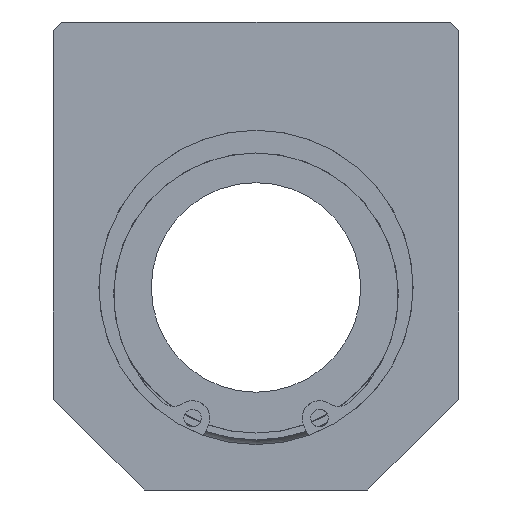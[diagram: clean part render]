
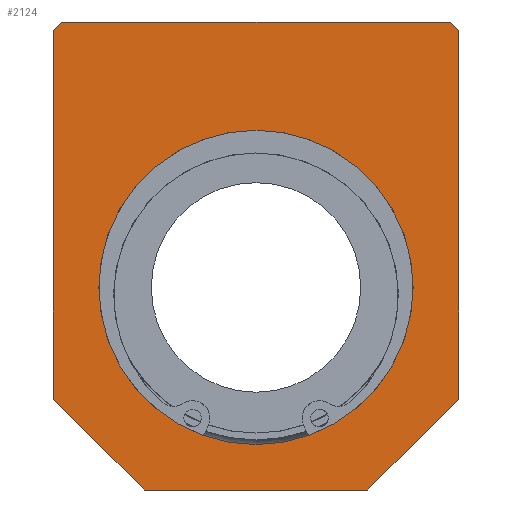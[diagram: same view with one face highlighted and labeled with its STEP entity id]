
A CAD part, left-side view. The second image highlights one B-rep face of the part: STEP entity #2124.
In plain terms, the highlighted planar face has unit normal (-1, 0, 0).
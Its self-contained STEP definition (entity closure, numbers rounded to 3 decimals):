
#2026=CARTESIAN_POINT('',(0.0,-27.8,38.));
#2027=VERTEX_POINT('',#2026);
#2034=CARTESIAN_POINT('',(0.0,-29.0,36.8));
#2035=VERTEX_POINT('',#2034);
#2036=CARTESIAN_POINT('',(0.0,-27.8,38.));
#2037=DIRECTION('',(0.0,-0.707,-0.707));
#2038=VECTOR('',#2037,1.697);
#2039=LINE('',#2036,#2038);
#2040=EDGE_CURVE('',#2027,#2035,#2039,.T.);
#2051=CARTESIAN_POINT('',(0.0,0.,4.5));
#2052=DIRECTION('',(1.0,0.0,0.0));
#2053=DIRECTION('',(0.0,0.0,-1.0));
#2054=AXIS2_PLACEMENT_3D('',#2051,#2052,#2053);
#2055=PLANE('',#2054);
#2056=ORIENTED_EDGE('',*,*,#2040,.F.);
#2057=CARTESIAN_POINT('',(0.0,27.8,38.));
#2058=VERTEX_POINT('',#2057);
#2059=CARTESIAN_POINT('',(0.0,-27.8,38.));
#2060=DIRECTION('',(0.0,1.0,0.0));
#2061=VECTOR('',#2060,55.6);
#2062=LINE('',#2059,#2061);
#2063=EDGE_CURVE('',#2027,#2058,#2062,.T.);
#2064=ORIENTED_EDGE('',*,*,#2063,.T.);
#2065=CARTESIAN_POINT('',(0.0,29.0,36.8));
#2066=VERTEX_POINT('',#2065);
#2067=CARTESIAN_POINT('',(0.0,29.0,36.8));
#2068=DIRECTION('',(0.0,-0.707,0.707));
#2069=VECTOR('',#2068,1.697);
#2070=LINE('',#2067,#2069);
#2071=EDGE_CURVE('',#2066,#2058,#2070,.T.);
#2072=ORIENTED_EDGE('',*,*,#2071,.F.);
#2073=CARTESIAN_POINT('',(0.0,29.,-16.));
#2074=VERTEX_POINT('',#2073);
#2075=CARTESIAN_POINT('',(0.0,29.0,36.8));
#2076=DIRECTION('',(0.0,0.0,-1.0));
#2077=VECTOR('',#2076,52.8);
#2078=LINE('',#2075,#2077);
#2079=EDGE_CURVE('',#2066,#2074,#2078,.T.);
#2080=ORIENTED_EDGE('',*,*,#2079,.T.);
#2081=CARTESIAN_POINT('',(0.0,16.,-29.));
#2082=VERTEX_POINT('',#2081);
#2083=CARTESIAN_POINT('',(0.0,16.,-29.));
#2084=DIRECTION('',(0.0,0.707,0.707));
#2085=VECTOR('',#2084,18.385);
#2086=LINE('',#2083,#2085);
#2087=EDGE_CURVE('',#2082,#2074,#2086,.T.);
#2088=ORIENTED_EDGE('',*,*,#2087,.F.);
#2089=CARTESIAN_POINT('',(0.0,-16.,-29.));
#2090=VERTEX_POINT('',#2089);
#2091=CARTESIAN_POINT('',(0.0,16.,-29.));
#2092=DIRECTION('',(0.0,-1.0,0.0));
#2093=VECTOR('',#2092,32.);
#2094=LINE('',#2091,#2093);
#2095=EDGE_CURVE('',#2082,#2090,#2094,.T.);
#2096=ORIENTED_EDGE('',*,*,#2095,.T.);
#2097=CARTESIAN_POINT('',(0.0,-29.,-16.));
#2098=VERTEX_POINT('',#2097);
#2099=CARTESIAN_POINT('',(0.0,-29.,-16.));
#2100=DIRECTION('',(0.0,0.707,-0.707));
#2101=VECTOR('',#2100,18.385);
#2102=LINE('',#2099,#2101);
#2103=EDGE_CURVE('',#2098,#2090,#2102,.T.);
#2104=ORIENTED_EDGE('',*,*,#2103,.F.);
#2105=CARTESIAN_POINT('',(0.0,-29.,-16.));
#2106=DIRECTION('',(0.0,0.0,1.0));
#2107=VECTOR('',#2106,52.8);
#2108=LINE('',#2105,#2107);
#2109=EDGE_CURVE('',#2098,#2035,#2108,.T.);
#2110=ORIENTED_EDGE('',*,*,#2109,.T.);
#2111=EDGE_LOOP('',(#2056,#2064,#2072,#2080,#2088,#2096,#2104,#2110));
#2112=FACE_OUTER_BOUND('',#2111,.T.);
#2113=CARTESIAN_POINT('',(0.0,22.5,0.));
#2114=VERTEX_POINT('',#2113);
#2115=CARTESIAN_POINT('',(0.0,0.0,0.0));
#2116=DIRECTION('',(1.0,0.0,0.0));
#2117=DIRECTION('',(0.0,-1.0,0.0));
#2118=AXIS2_PLACEMENT_3D('',#2115,#2116,#2117);
#2119=CIRCLE('',#2118,22.5);
#2120=EDGE_CURVE('',#2114,#2114,#2119,.T.);
#2121=ORIENTED_EDGE('',*,*,#2120,.T.);
#2122=EDGE_LOOP('',(#2121));
#2123=FACE_BOUND('',#2122,.T.);
#2124=ADVANCED_FACE('',(#2112,#2123),#2055,.F.);
